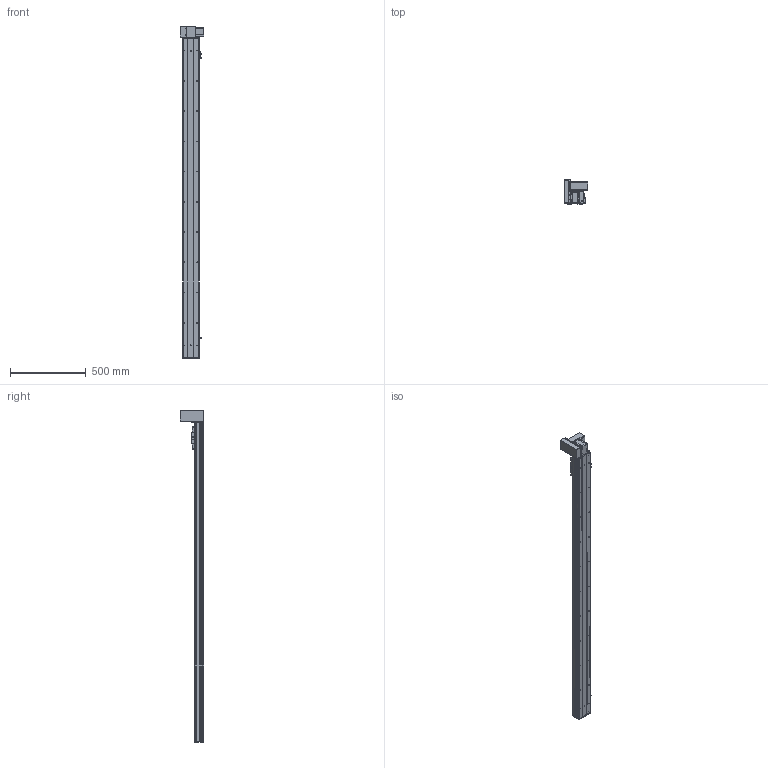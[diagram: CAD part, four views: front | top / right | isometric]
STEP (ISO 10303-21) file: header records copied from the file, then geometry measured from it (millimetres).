
FILE_DESCRIPTION (( 'STEP AP203' ), '1' );
FILE_NAME ('Y10CB-D90-S1850-UL-P400W.STEP', '2020-02-16T08:07:16', ( '微软用户' ), ( '微软中国' ), 'SwSTEP 2.0', 'SolidWorks 2017', '' );
FILE_SCHEMA (( 'CONFIG_CONTROL_DESIGN' ));
Length unit declared in the file: millimetre
Products named in the file (18): Y135C-陔俋离換覜結え-; san松下电机400不带刹车----; Y100-135俋离換覜ん--; 0B-源倛裔啣; Y10B-耜蚾蟀諉啣----; 0B-埴倛裔啣; 00B-俋欶BM--; 10CB-詩湍-; Y10B--々湍喘謫眊--666; Y10CB- 掛极耜裔啣-毀---; 0CB-雄赽釱---; Y10CB-D90-S1850-UL-P400W; Y10C---詩湍揤啣; 0Cb-俋欶---; 10CB9-掛极; Y10B-々湍喘謫眊楊擘啣--; 10CB-耜裔; 0B-萇儂楊擘啣
Assembly tree (21 placements, depth 2):
  Y10CB-D90-S1850-UL-P400W
    0CB-雄赽釱---
    0Cb-俋欶---
    Y10B-々湍喘謫眊楊擘啣--
    0B-萇儂楊擘啣
    san松下电机400不带刹车----
    0B-源倛裔啣
    0B-埴倛裔啣
    10CB-詩湍-
    Y10CB- 掛极耜裔啣-毀---  x2
    Y10C---詩湍揤啣  x2
    10CB9-掛极
    10CB-耜裔
    Y135C-陔俋离換覜結え-
    Y100-135俋离換覜ん--  x3
    Y10B-耜蚾蟀諉啣----
    00B-俋欶BM--
    Y10B--々湍喘謫眊--666
Bounding box: 157 x 155.5 x 2196 mm (x, y, z)
Volume: 4619198.9 mm3; surface area: 2159827.8 mm2
Topology: 21 solids, 21 shells, 1038 faces, 2803 edges, 1826 vertices
Faces by surface type: cylinder 529, plane 485, cone 24
Entity records: 32912 total; most frequent: CARTESIAN_POINT 6061, DIRECTION 5270, ORIENTED_EDGE 5076, EDGE_CURVE 2538, AXIS2_PLACEMENT_3D 1885, VERTEX_POINT 1652, VECTOR 1500, LINE 1500
